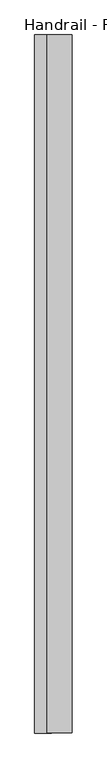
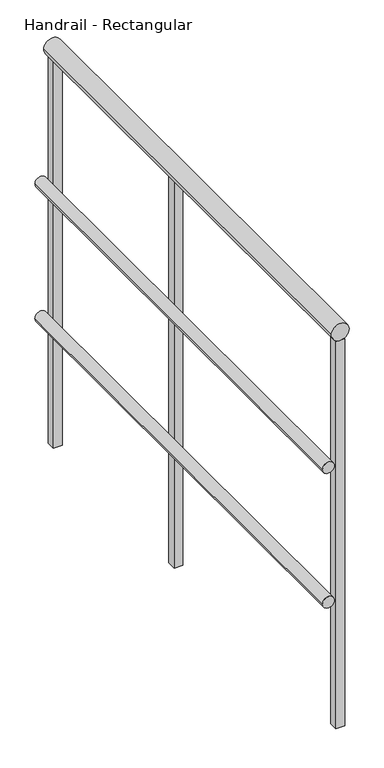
"""IFC4 building model written with IfcOpenShell, lengths in millimetres: railing geometry, Handrail - Rectangular."""

import ifcopenshell
import ifcopenshell.guid

model = None  # the IFC model being written
_history = None  # IfcOwnerHistory: only IFC2X3 demands one
_inside = {}  # id of a spatial element -> (the spatial element, [elements in it])
_under = {}  # id of a project, library or spatial element -> (it, [spatial elements below it])
_declared = {}  # id of a project -> (the project, [libraries it declares])
_typed = {}  # id of a type object -> (the type object, [elements of that type])
_made_of = {}  # id of a material, layer set ... -> (it, [elements and type objects made of it])


def new_model(schema):
    """Start an empty IFC model of exactly this schema.

    Asked for "IFC4X3", IfcOpenShell would pick the latest addendum, in which some entities
    have other attributes; the version numbers below select the first issue.
    IFC2X3 requires an IfcOwnerHistory on every rooted entity: one is made here for all.
    """
    global model, _history
    if schema == "IFC4X3":
        model = ifcopenshell.file(schema_version=(4, 3, 0, 0))
    else:
        model = ifcopenshell.file(schema=schema)
    _inside.clear()
    _under.clear()
    _declared.clear()
    _typed.clear()
    _made_of.clear()
    _history = None
    if model.schema == "IFC2X3":
        org = make("IfcOrganization", Name="unknown")
        user = make(
            "IfcPersonAndOrganization",
            ThePerson=make("IfcPerson", FamilyName="unknown"),
            TheOrganization=org,
        )
        app = make(
            "IfcApplication",
            ApplicationDeveloper=org,
            Version="unknown",
            ApplicationFullName="unknown",
            ApplicationIdentifier="unknown",
        )
        _history = make(
            "IfcOwnerHistory",
            OwningUser=user,
            OwningApplication=app,
            ChangeAction="ADDED",
            CreationDate=0,
        )
    return model


def make(cls, **values):
    """One entity of the class cls with the attributes given. An attribute that is None is left unset."""
    return model.create_entity(
        cls, **{name: value for name, value in values.items() if value is not None}
    )


def rooted(cls, **values):
    """An entity with a GlobalId (a new one), such as an element, a storey or a relation."""
    return make(cls, GlobalId=ifcopenshell.guid.new(), OwnerHistory=_history, **values)


def si_unit(unit_type, name, prefix=None):
    """IfcSIUnit, for example si_unit("LENGTHUNIT", "METRE", prefix="MILLI")."""
    return make("IfcSIUnit", UnitType=unit_type, Prefix=prefix, Name=name)


def assignment(units):
    """IfcUnitAssignment: the units of a project."""
    return None if units is None else make("IfcUnitAssignment", Units=units)


def point(xyz):
    """IfcCartesianPoint."""
    return None if xyz is None else make("IfcCartesianPoint", Coordinates=xyz)


def direction(xyz):
    """IfcDirection."""
    return None if xyz is None else make("IfcDirection", DirectionRatios=xyz)


def frame(location, z_axis=None, x_axis=None):
    """IfcAxis2Placement3D, a coordinate frame: its origin and axes. An axis left out is left unset."""
    return make(
        "IfcAxis2Placement3D",
        Location=point(location),
        Axis=direction(z_axis),
        RefDirection=direction(x_axis),
    )


def frame_2d(location, x_axis=None):
    """IfcAxis2Placement2D, a coordinate frame in the plane: its origin and x axis."""
    return make(
        "IfcAxis2Placement2D", Location=point(location), RefDirection=direction(x_axis)
    )


def origin():
    """The frame at (0, 0, 0) with its axes left unset."""
    return frame((0.0, 0.0, 0.0))


def place(relative_to, where):
    """IfcLocalPlacement: puts the frame where relative to a parent placement (None: the world)."""
    return make(
        "IfcLocalPlacement", PlacementRelTo=relative_to, RelativePlacement=where
    )


def context(
    kind, dimensions, precision=None, world=None, true_north=None, identifier=None
):
    """IfcGeometricRepresentationContext, for example the 3D "Model" context."""
    return make(
        "IfcGeometricRepresentationContext",
        ContextIdentifier=identifier,
        ContextType=kind,
        CoordinateSpaceDimension=dimensions,
        Precision=precision,
        WorldCoordinateSystem=world,
        TrueNorth=true_north,
    )


def project(units=None, contexts=None):
    """IfcProject with its units and contexts."""
    return rooted(
        "IfcProject",
        Name="project",
        RepresentationContexts=contexts,
        UnitsInContext=assignment(units),
    )


def spatial(cls, under=None, at=None, **own):
    """A site, building, storey or space (cls), placed at a placement, below another one or the project."""
    s = rooted(cls, ObjectPlacement=at, **own)
    if under is not None:
        _under.setdefault(under.id(), (under, []))[1].append(s)
    return s


def polyline(points):
    """IfcPolyline through the points."""
    return make("IfcPolyline", Points=[point(p) for p in points])


def circle_curve(where, radius):
    """IfcCircle in the frame where."""
    return make("IfcCircle", Position=where, Radius=radius)


def trimmed(basis, trim1, trim2, sense, master):
    """IfcTrimmedCurve: the piece of a basis curve between two trims."""
    return make(
        "IfcTrimmedCurve",
        BasisCurve=basis,
        Trim1=trim1,
        Trim2=trim2,
        SenseAgreement=sense,
        MasterRepresentation=master,
    )


def segment(curve, same_sense, transition):
    """IfcCompositeCurveSegment."""
    return make(
        "IfcCompositeCurveSegment",
        Transition=transition,
        SameSense=same_sense,
        ParentCurve=curve,
    )


def composite_curve(segments, self_intersect=None):
    """IfcCompositeCurve: segments joined end to end."""
    return make("IfcCompositeCurve", Segments=segments, SelfIntersect=self_intersect)


def outline(outer, holes=None, kind="AREA"):
    """IfcArbitraryClosedProfileDef: a profile drawn as a closed curve; with holes, ...WithVoids."""
    if holes is None:
        return make("IfcArbitraryClosedProfileDef", ProfileType=kind, OuterCurve=outer)
    return make(
        "IfcArbitraryProfileDefWithVoids",
        ProfileType=kind,
        OuterCurve=outer,
        InnerCurves=holes,
    )


def extrude(swept, where, along, depth):
    """IfcExtrudedAreaSolid: the profile swept, set in the frame where, extruded along a direction by depth."""
    return make(
        "IfcExtrudedAreaSolid",
        SweptArea=swept,
        Position=where,
        ExtrudedDirection=direction(along),
        Depth=depth,
    )


def shape(context_of_items, identifier, shape_type, items):
    """IfcShapeRepresentation: the items that make up one representation, for example the "Body"."""
    return make(
        "IfcShapeRepresentation",
        ContextOfItems=context_of_items,
        RepresentationIdentifier=identifier,
        RepresentationType=shape_type,
        Items=items,
    )


def source(mapping_origin, context_of_items, identifier, shape_type, items):
    """IfcRepresentationMap: a shape defined once, which mapped items show again and again."""
    return make(
        "IfcRepresentationMap",
        MappingOrigin=mapping_origin,
        MappedRepresentation=shape(context_of_items, identifier, shape_type, items),
    )


def transform(
    local_origin,
    x_axis=None,
    y_axis=None,
    z_axis=None,
    scale=None,
    scale2=None,
    scale3=None,
    uniform=True,
):
    """IfcCartesianTransformationOperator3D, or its non-uniform kind. x_axis, y_axis, z_axis: its Axis1, 2, 3."""
    if uniform:
        return make(
            "IfcCartesianTransformationOperator3D",
            Axis1=direction(x_axis),
            Axis2=direction(y_axis),
            LocalOrigin=point(local_origin),
            Scale=scale,
            Axis3=direction(z_axis),
        )
    return make(
        "IfcCartesianTransformationOperator3DnonUniform",
        Axis1=direction(x_axis),
        Axis2=direction(y_axis),
        LocalOrigin=point(local_origin),
        Scale=scale,
        Axis3=direction(z_axis),
        Scale2=scale2,
        Scale3=scale3,
    )


def mapped(mapping_source, mapping_target):
    """IfcMappedItem: shows the shape of a source again, moved by a transform."""
    return make(
        "IfcMappedItem", MappingSource=mapping_source, MappingTarget=mapping_target
    )


def made_of(thing, what):
    """Note that an element or type object is made of a material, layer set ...; save() writes the relation."""
    if what is not None:
        _made_of.setdefault(what.id(), (what, []))[1].append(thing)
    return thing


def element(
    cls,
    number,
    at=None,
    inside=None,
    cuts=None,
    type_object=None,
    material=None,
    context=None,
    identifier="Body",
    shape_type=None,
    held_by="IfcProductDefinitionShape",
    body=None,
    shapes=None,
    **own,
):
    """One element of the class cls, such as IfcWall. Its Tag is "e" and its number.

    at: its placement. inside: the storey or other place that contains it. cuts: it is an
    opening in that element (IfcRelVoidsElement). A single representation is given by context,
    identifier, shape_type and body (its items); several are given by shapes. held_by: the class
    of the entity that holds the representations. save() writes the other relations.
    """
    e = rooted(cls, Tag="e%d" % number, ObjectPlacement=at, **own)
    if body is not None:
        shapes = [shape(context, identifier, shape_type, body)]
    if shapes is not None:
        e.Representation = make(held_by, Representations=shapes)
    if inside is not None:
        _inside.setdefault(inside.id(), (inside, []))[1].append(e)
    if cuts is not None:
        rooted(
            "IfcRelVoidsElement", RelatingBuildingElement=cuts, RelatedOpeningElement=e
        )
    if type_object is not None:
        _typed.setdefault(type_object.id(), (type_object, []))[1].append(e)
    return made_of(e, material)


def aggregate(whole, parts):
    """IfcRelAggregates: a whole, such as a stair, and the parts it consists of."""
    return rooted("IfcRelAggregates", RelatingObject=whole, RelatedObjects=parts)


def save(model, path):
    """Write the relations noted so far, then the file.

    IfcRelAggregates (storeys below a building ...), IfcRelContainedInSpatialStructure (elements
    in a storey), IfcRelDefinesByType, IfcRelAssociatesMaterial and IfcRelDeclares: one each for
    every whole, place, type object, material and project.
    """
    for whole, parts in _under.values():
        aggregate(whole, parts)
    for where, things in _inside.values():
        rooted(
            "IfcRelContainedInSpatialStructure",
            RelatedElements=things,
            RelatingStructure=where,
        )
    for kind, things in _typed.values():
        rooted("IfcRelDefinesByType", RelatedObjects=things, RelatingType=kind)
    for what, things in _made_of.values():
        rooted("IfcRelAssociatesMaterial", RelatedObjects=things, RelatingMaterial=what)
    for by, libraries in _declared.values():
        rooted("IfcRelDeclares", RelatingContext=by, RelatedDefinitions=libraries)
    model.write(path)


def handrail_rectangular_dd930bd4(model_context):
    return source(origin(), model_context, "Body", "SweptSolid", [
        extrude(outline(composite_curve([segment(trimmed(circle_curve(frame_2d((3644.9, -32192.8839563)), 12.7), [point((3644.9, -32205.5839563))], [point((3644.9, -32180.1839563))], False, "CARTESIAN"), True, "CONTINUOUS"), segment(trimmed(circle_curve(frame_2d((3644.9, -32192.8839563)), 12.7), [point((3644.9, -32180.1839563))], [point((3644.9, -32205.5839563))], False, "CARTESIAN"), True, "CONTINUOUS")], self_intersect=False)), frame((0.0, -31539.9683133, 0.0), z_axis=(0.0, 1.0, 0.0), x_axis=(0.0, 0.0, 1.0)), (0.0, 0.0, 1.0), 1066.8),
        extrude(outline(composite_curve([segment(trimmed(circle_curve(frame_2d((3340.1, -32192.8839563)), 12.7), [point((3340.1, -32205.5839563))], [point((3340.1, -32180.1839563))], False, "CARTESIAN"), True, "CONTINUOUS"), segment(trimmed(circle_curve(frame_2d((3340.1, -32192.8839563)), 12.7), [point((3340.1, -32180.1839563))], [point((3340.1, -32205.5839563))], False, "CARTESIAN"), True, "CONTINUOUS")], self_intersect=False)), frame((0.0, -31539.9683133, 0.0), z_axis=(0.0, 1.0, 0.0), x_axis=(0.0, 0.0, 1.0)), (0.0, 0.0, 1.0), 1066.8),
        extrude(outline(composite_curve([segment(trimmed(circle_curve(frame_2d((3943.35, -32167.4839563)), 19.05), [point((3943.35, -32186.5339563))], [point((3943.35, -32148.4339563))], False, "CARTESIAN"), True, "CONTINUOUS"), segment(trimmed(circle_curve(frame_2d((3943.35, -32167.4839563)), 19.05), [point((3943.35, -32148.4339563))], [point((3943.35, -32186.5339563))], False, "CARTESIAN"), True, "CONTINUOUS")], self_intersect=False)), frame((0.0, -31539.9683133, 0.0), z_axis=(0.0, 1.0, 0.0), x_axis=(0.0, 0.0, 1.0)), (0.0, 0.0, 1.0), 1066.8),
        extrude(outline(polyline([(-32157.9589563, -30939.8933133), (-32177.0089563, -30939.8933133), (-32177.0089563, -30920.8433133), (-32157.9589563, -30920.8433133), (-32157.9589563, -30939.8933133)])), frame((0.0, 0.0, 3048.0), z_axis=(0.0, 0.0, 1.0), x_axis=(1.0, 0.0, 0.0)), (0.0, 0.0, 1.0), 876.3),
        extrude(outline(polyline([(-32157.9589563, -30492.2183133), (-32177.0089563, -30492.2183133), (-32177.0089563, -30473.1683133), (-32157.9589563, -30473.1683133), (-32157.9589563, -30492.2183133)])), frame((0.0, 0.0, 3048.0), z_axis=(0.0, 0.0, 1.0), x_axis=(1.0, 0.0, 0.0)), (0.0, 0.0, 1.0), 876.3),
        extrude(outline(polyline([(-32157.9589563, -31539.9683133), (-32177.0089563, -31539.9683133), (-32177.0089563, -31520.9183133), (-32157.9589563, -31520.9183133), (-32157.9589563, -31539.9683133)])), frame((0.0, 0.0, 3048.0), z_axis=(0.0, 0.0, 1.0), x_axis=(1.0, 0.0, 0.0)), (0.0, 0.0, 1.0), 876.3),
    ])


if __name__ == "__main__":
    model = new_model("IFC4")
    model_context = context("Model", 3, world=origin())
    ifc_project = project(units=[si_unit("LENGTHUNIT", "METRE", prefix="MILLI")], contexts=[model_context])
    site = spatial("IfcSite", under=ifc_project)
    building = spatial("IfcBuilding", under=site)
    placement = place(None, origin())
    handrail_rectangular_shape = handrail_rectangular_dd930bd4(model_context)
    element("IfcRailing", 1, ObjectType="Handrail - Rectangular", at=placement, inside=building, context=model_context, shape_type="MappedRepresentation", body=[
        mapped(handrail_rectangular_shape, transform((0.0, 0.0, 0.0), x_axis=(1.0, 0.0, 0.0), y_axis=(0.0, 1.0, 0.0), z_axis=(0.0, 0.0, 1.0))),
    ])
    save(model, "model.ifc")
